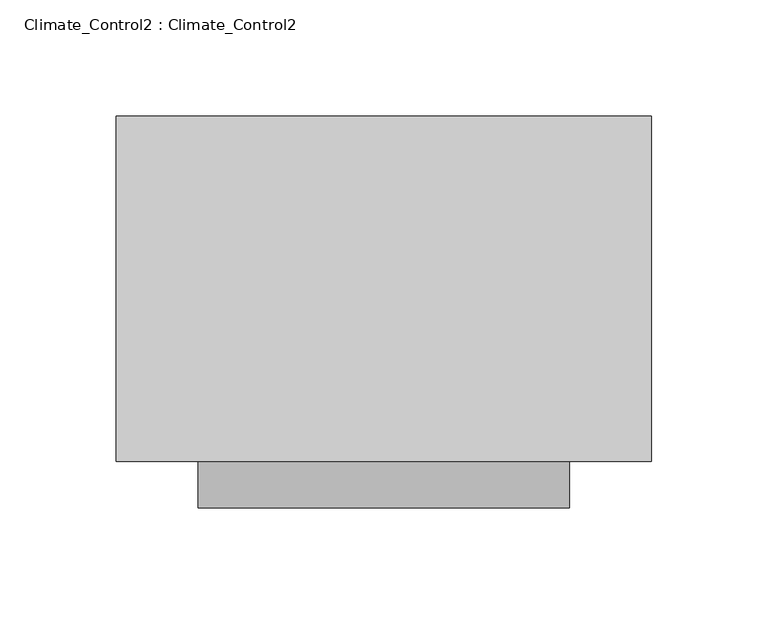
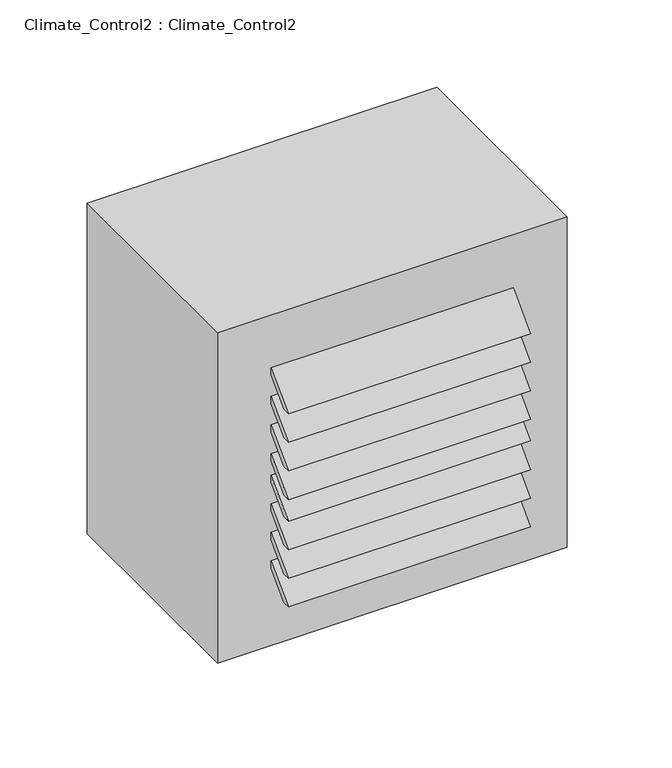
"""IFC4 building model written with IfcOpenShell, lengths in millimetres: proxy geometry, Climate_Control2 : Climate_Control2."""

from ifc_helpers import new_model, si_unit, frame, origin, origin_with_axes, place, context, project, spatial, polyline, outline, extrude, source, transform, mapped, element, save


def climate_control2_climate_control2_4c8c6d90(model_context):
    return source(origin(), model_context, "Body", "SweptSolid", [
        extrude(outline(polyline([(-94.5, 174.0), (-74.5, 194.0), (-74.5, 189.0), (-89.5, 174.0), (-94.5, 174.0)])), frame((-80.0, 0.0, 0.0), z_axis=(1.0, 0.0, 0.0), x_axis=(0.0, 1.0, 0.0)), (0.0, 0.0, 1.0), 160.0),
        extrude(outline(polyline([(-94.5, 154.0), (-74.5, 174.0), (-74.5, 169.0), (-89.5, 154.0), (-94.5, 154.0)])), frame((-80.0, 0.0, 0.0), z_axis=(1.0, 0.0, 0.0), x_axis=(0.0, 1.0, 0.0)), (0.0, 0.0, 1.0), 160.0),
        extrude(outline(polyline([(-94.5, 134.0), (-74.5, 154.0), (-74.5, 149.0), (-89.5, 134.0), (-94.5, 134.0)])), frame((-80.0, 0.0, 0.0), z_axis=(1.0, 0.0, 0.0), x_axis=(0.0, 1.0, 0.0)), (0.0, 0.0, 1.0), 160.0),
        extrude(outline(polyline([(-94.5, 114.0), (-74.5, 134.0), (-74.5, 129.0), (-89.5, 114.0), (-94.5, 114.0)])), frame((-80.0, 0.0, 0.0), z_axis=(1.0, 0.0, 0.0), x_axis=(0.0, 1.0, 0.0)), (0.0, 0.0, 1.0), 160.0),
        extrude(outline(polyline([(-94.5, 99.0), (-74.5, 119.0), (-74.5, 114.0), (-89.5, 99.0), (-94.5, 99.0)])), frame((-80.0, 0.0, 0.0), z_axis=(1.0, 0.0, 0.0), x_axis=(0.0, 1.0, 0.0)), (0.0, 0.0, 1.0), 160.0),
        extrude(outline(polyline([(-94.5, 79.0), (-74.5, 99.0), (-74.5, 94.0), (-89.5, 79.0), (-94.5, 79.0)])), frame((-80.0, 0.0, 0.0), z_axis=(1.0, 0.0, 0.0), x_axis=(0.0, 1.0, 0.0)), (0.0, 0.0, 1.0), 160.0),
        extrude(outline(polyline([(-94.5, 59.0), (-74.5, 79.0), (-74.5, 74.0), (-89.5, 59.0), (-94.5, 59.0)])), frame((-80.0, 0.0, 0.0), z_axis=(1.0, 0.0, 0.0), x_axis=(0.0, 1.0, 0.0)), (0.0, 0.0, 1.0), 160.0),
        extrude(outline(polyline([(-94.5, 39.0), (-74.5, 59.0), (-74.5, 54.0), (-89.5, 39.0), (-94.5, 39.0)])), frame((-80.0, 0.0, 0.0), z_axis=(1.0, 0.0, 0.0), x_axis=(0.0, 1.0, 0.0)), (0.0, 0.0, 1.0), 160.0),
        extrude(outline(polyline([(115.5, 74.5), (115.5, -74.5), (-115.5, -74.5), (-115.5, 74.5), (115.5, 74.5)])), origin_with_axes(), (0.0, 0.0, 1.0), 231.0),
    ])


if __name__ == "__main__":
    model = new_model("IFC4")
    model_context = context("Model", 3, world=origin())
    ifc_project = project(units=[si_unit("LENGTHUNIT", "METRE", prefix="MILLI")], contexts=[model_context])
    site = spatial("IfcSite", under=ifc_project)
    building = spatial("IfcBuilding", under=site)
    placement = place(None, origin())
    climate_control2_climate_control2_shape = climate_control2_climate_control2_4c8c6d90(model_context)
    element("IfcBuildingElementProxy", 1, Name="Climate_Control2 : Climate_Control2", ObjectType="Climate_Control2 : Climate_Control2", at=placement, inside=building, context=model_context, shape_type="MappedRepresentation", body=[
        mapped(climate_control2_climate_control2_shape, transform((0.0, 0.0, 0.0), x_axis=(1.0, 0.0, 0.0), y_axis=(0.0, 1.0, 0.0), z_axis=(0.0, 0.0, 1.0))),
    ])
    save(model, "model.ifc")
